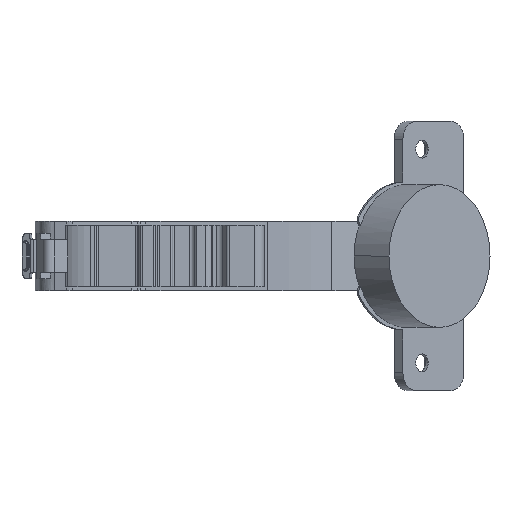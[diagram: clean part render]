
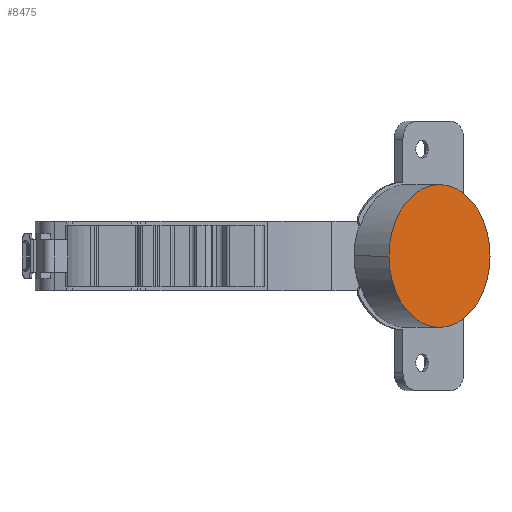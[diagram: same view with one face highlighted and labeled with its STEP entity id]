
A CAD part, front view. The second image highlights one B-rep face of the part: STEP entity #8475.
In plain terms, the highlighted planar face has unit normal (0.707, -0.707, 0).
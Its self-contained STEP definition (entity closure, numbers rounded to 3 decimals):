
#438 = EDGE_CURVE ( 'NONE', #7960, #1685, #5823, .T. ) ;
#572 = CARTESIAN_POINT ( 'NONE',  ( 58.611, 23.778, 0. ) ) ;
#873 = EDGE_CURVE ( 'NONE', #1685, #7960, #6252, .T. ) ;
#1261 = ORIENTED_EDGE ( 'NONE', *, *, #438, .T. ) ;
#1449 = DIRECTION ( 'NONE',  ( 0.707, -0.707, 0. ) ) ;
#1685 = VERTEX_POINT ( 'NONE', #2728 ) ;
#2533 = CARTESIAN_POINT ( 'NONE',  ( 70.915, 36.082, 0. ) ) ;
#2728 = CARTESIAN_POINT ( 'NONE',  ( 46.307, 11.475, 0. ) ) ;
#3026 = AXIS2_PLACEMENT_3D ( 'NONE', #4026, #6583, #3319 ) ;
#3319 = DIRECTION ( 'NONE',  ( 0.707, 0.707, 0. ) ) ;
#4026 = CARTESIAN_POINT ( 'NONE',  ( 58.611, 23.778, 0. ) ) ;
#4052 = FACE_OUTER_BOUND ( 'NONE', #5014, .T. ) ;
#4283 = AXIS2_PLACEMENT_3D ( 'NONE', #5323, #7930, #7263 ) ;
#5014 = EDGE_LOOP ( 'NONE', ( #1261, #6657 ) ) ;
#5323 = CARTESIAN_POINT ( 'NONE',  ( 58.611, 23.778, 0. ) ) ;
#5823 = CIRCLE ( 'NONE', #3026, 17.4 ) ;
#5942 = PLANE ( 'NONE',  #8628 ) ;
#6252 = CIRCLE ( 'NONE', #4283, 17.4 ) ;
#6583 = DIRECTION ( 'NONE',  ( 0.707, -0.707, 0. ) ) ;
#6657 = ORIENTED_EDGE ( 'NONE', *, *, #873, .T. ) ;
#7263 = DIRECTION ( 'NONE',  ( 0.707, 0.707, 0. ) ) ;
#7345 = DIRECTION ( 'NONE',  ( 0.707, 0.707, 0. ) ) ;
#7930 = DIRECTION ( 'NONE',  ( 0.707, -0.707, 0. ) ) ;
#7960 = VERTEX_POINT ( 'NONE', #2533 ) ;
#8475 = ADVANCED_FACE ( 'NONE', ( #4052 ), #5942, .T. ) ;
#8628 = AXIS2_PLACEMENT_3D ( 'NONE', #572, #1449, #7345 ) ;
